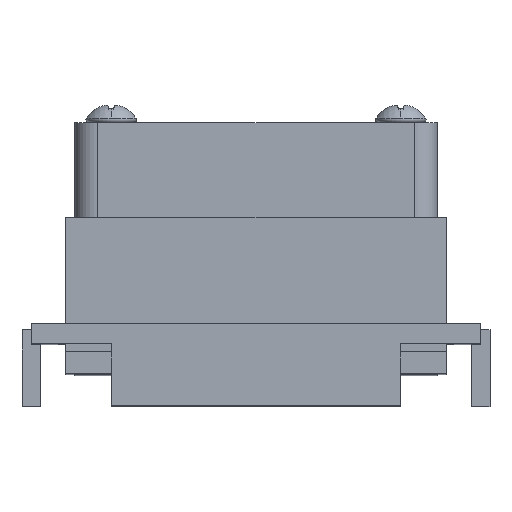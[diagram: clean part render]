
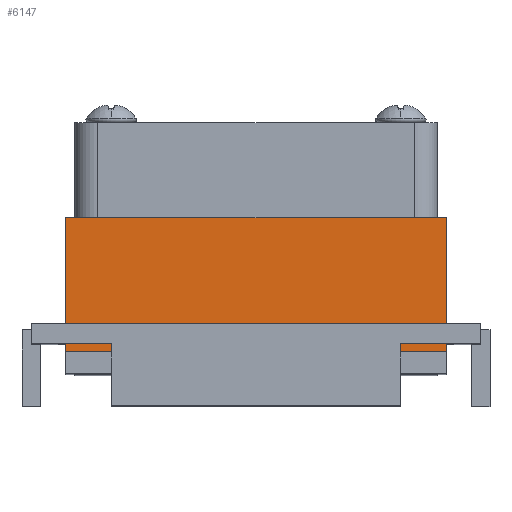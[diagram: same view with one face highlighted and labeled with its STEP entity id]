
A CAD part, top view. The second image highlights one B-rep face of the part: STEP entity #6147.
In plain terms, the highlighted planar face has unit normal (0, 0, 1).
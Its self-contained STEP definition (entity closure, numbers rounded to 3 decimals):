
#3313 = VERTEX_POINT ( 'NONE', #14152 ) ;
#3405 = CARTESIAN_POINT ( 'NONE',  ( 0., 2.5, 20.218 ) ) ;
#3903 = LINE ( 'NONE', #3405, #41724 ) ;
#5435 = ORIENTED_EDGE ( 'NONE', *, *, #34467, .T. ) ;
#6147 = ADVANCED_FACE ( 'NONE', ( #39928 ), #12127, .T. ) ;
#6971 = ORIENTED_EDGE ( 'NONE', *, *, #21374, .T. ) ;
#7604 = VERTEX_POINT ( 'NONE', #16453 ) ;
#7855 = DIRECTION ( 'NONE',  ( 0., -1., 0. ) ) ;
#10025 = DIRECTION ( 'NONE',  ( 0., 1., 0. ) ) ;
#12127 = PLANE ( 'NONE',  #29333 ) ;
#13538 = VERTEX_POINT ( 'NONE', #38130 ) ;
#14152 = CARTESIAN_POINT ( 'NONE',  ( 21., 17.25, 20.218 ) ) ;
#16453 = CARTESIAN_POINT ( 'NONE',  ( 21., 2.5, 20.218 ) ) ;
#19275 = DIRECTION ( 'NONE',  ( 1., 0., 0. ) ) ;
#19377 = EDGE_LOOP ( 'NONE', ( #49956, #5435, #35375, #6971 ) ) ;
#21374 = EDGE_CURVE ( 'NONE', #3313, #41155, #28394, .T. ) ;
#21632 = CARTESIAN_POINT ( 'NONE',  ( 38.269, 0., 20.218 ) ) ;
#22502 = LINE ( 'NONE', #45880, #29475 ) ;
#28394 = LINE ( 'NONE', #35301, #37199 ) ;
#29333 = AXIS2_PLACEMENT_3D ( 'NONE', #21632, #33325, #29482 ) ;
#29475 = VECTOR ( 'NONE', #7855, 1000. ) ;
#29482 = DIRECTION ( 'NONE',  ( 1., 0., 0. ) ) ;
#31468 = DIRECTION ( 'NONE',  ( -1., 0., 0. ) ) ;
#33325 = DIRECTION ( 'NONE',  ( 0., 0., 1. ) ) ;
#34467 = EDGE_CURVE ( 'NONE', #13538, #7604, #3903, .T. ) ;
#35301 = CARTESIAN_POINT ( 'NONE',  ( 38.269, 17.25, 20.218 ) ) ;
#35375 = ORIENTED_EDGE ( 'NONE', *, *, #49980, .F. ) ;
#36216 = CARTESIAN_POINT ( 'NONE',  ( -21., 17.25, 20.218 ) ) ;
#36846 = EDGE_CURVE ( 'NONE', #13538, #41155, #45230, .T. ) ;
#37199 = VECTOR ( 'NONE', #31468, 1000. ) ;
#37970 = VECTOR ( 'NONE', #10025, 1000. ) ;
#38130 = CARTESIAN_POINT ( 'NONE',  ( -21., 2.5, 20.218 ) ) ;
#39928 = FACE_OUTER_BOUND ( 'NONE', #19377, .T. ) ;
#41155 = VERTEX_POINT ( 'NONE', #36216 ) ;
#41724 = VECTOR ( 'NONE', #19275, 1000. ) ;
#44987 = CARTESIAN_POINT ( 'NONE',  ( -21., 0., 20.218 ) ) ;
#45230 = LINE ( 'NONE', #44987, #37970 ) ;
#45880 = CARTESIAN_POINT ( 'NONE',  ( 21., 0., 20.218 ) ) ;
#49956 = ORIENTED_EDGE ( 'NONE', *, *, #36846, .F. ) ;
#49980 = EDGE_CURVE ( 'NONE', #3313, #7604, #22502, .T. ) ;
